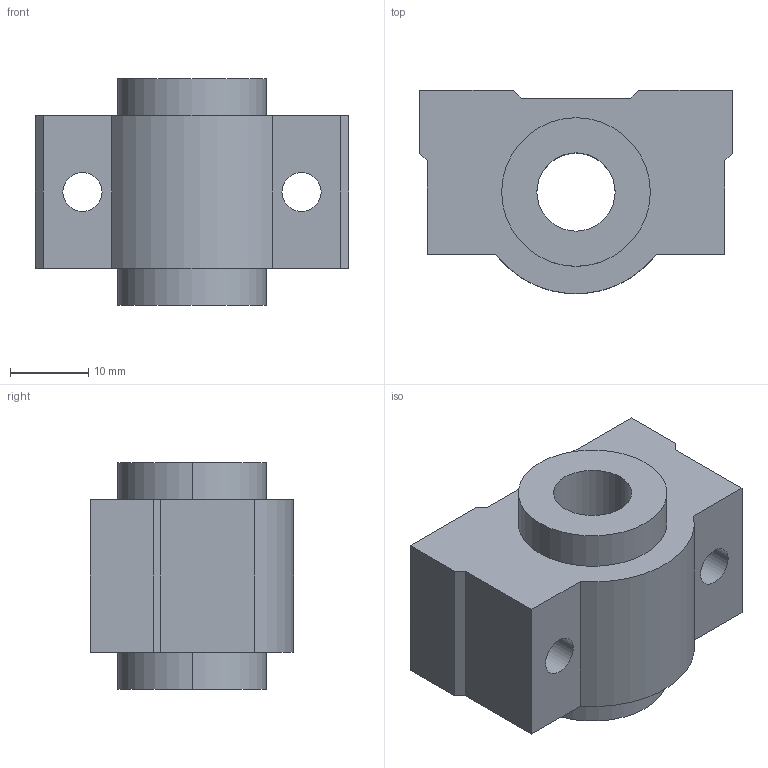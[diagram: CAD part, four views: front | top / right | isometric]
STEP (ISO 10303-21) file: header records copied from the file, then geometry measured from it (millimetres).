
FILE_DESCRIPTION((''),'2;1');
FILE_NAME('C:\Documents and Settings\ｿﾀﾀ蠑ｷ1\ｹﾙﾅﾁ ﾈｭｸ饅\ｺﾎﾇｰﾆﾄﾀﾏ\ﾁｦﾇｰ\SC__VUUN\SC10VUUN.stp','2005-06-22T11:25:39',('ｿﾀﾀ蠑ｷ1'),(''),'Autodesk Inventor 9','Autodesk Inventor 9','');
FILE_SCHEMA(('AUTOMOTIVE_DESIGN { 1 0 10303 214 1 1 1 1 }'));
Length unit declared in the file: millimetre
Products named in the file (1): SC__VUUN
Bounding box: 40 x 25.96 x 29 mm (x, y, z)
Volume: 16584.8 mm3; surface area: 6078.1 mm2
Topology: 1 solids, 1 shells, 28 faces, 72 edges, 48 vertices
Faces by surface type: plane 17, cylinder 7, bspline 4
Entity records: 945 total; most frequent: CARTESIAN_POINT 217, DIRECTION 144, ORIENTED_EDGE 144, EDGE_CURVE 72, VECTOR 50, LINE 50, VERTEX_POINT 48, AXIS2_PLACEMENT_3D 47
